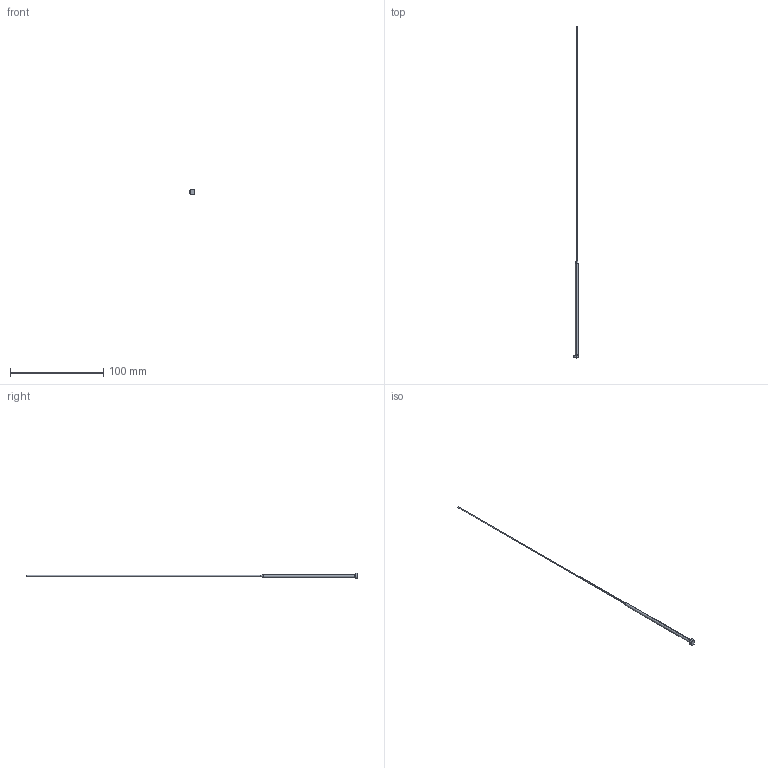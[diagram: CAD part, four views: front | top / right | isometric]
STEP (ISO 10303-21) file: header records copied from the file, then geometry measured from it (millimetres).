
FILE_DESCRIPTION (( 'STEP AP203' ), '1' );
FILE_NAME ('EP052L14-40-K.step', '2022-04-01T20:27:55', ( 'Microsoft Corporation' ), ( 'MS' ), 'SwSTEP 2.0', 'SolidWorks 2019', '' );
FILE_SCHEMA (( 'CONFIG_CONTROL_DESIGN' ));
Length unit declared in the file: inch
Products named in the file (1): EP052L14-40-K
Bounding box: 4.76 x 355.6 x 6.35 mm (x, y, z)
Volume: 1210.6 mm3; surface area: 2138.1 mm2
Topology: 1 solids, 1 shells, 22 faces, 49 edges, 29 vertices
Faces by surface type: cylinder 7, cone 6, torus 5, plane 4
Entity records: 702 total; most frequent: CARTESIAN_POINT 123, DIRECTION 117, ORIENTED_EDGE 98, AXIS2_PLACEMENT_3D 51, EDGE_CURVE 49, VERTEX_POINT 29, CIRCLE 28, EDGE_LOOP 22
